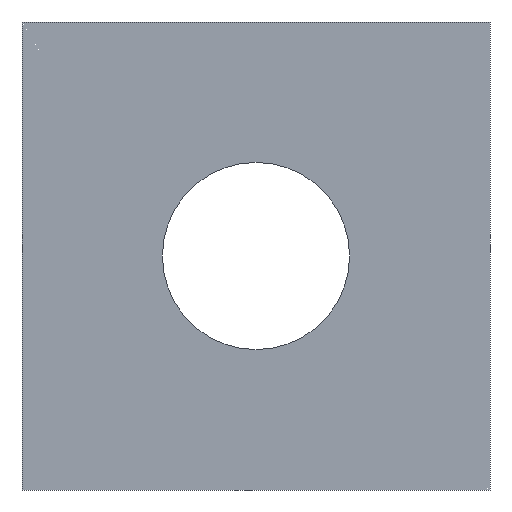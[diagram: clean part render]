
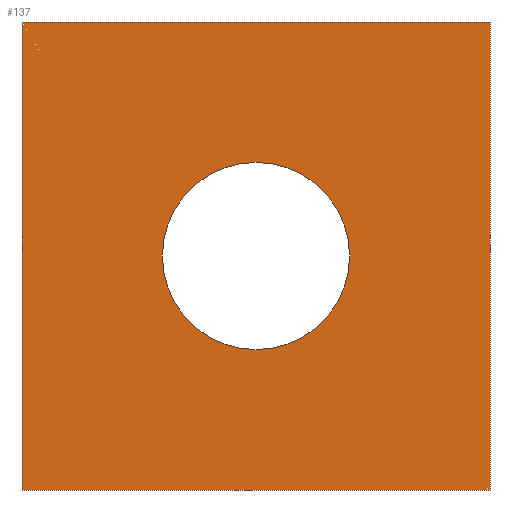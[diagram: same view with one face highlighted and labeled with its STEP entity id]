
A CAD part, front view. The second image highlights one B-rep face of the part: STEP entity #137.
In plain terms, the highlighted planar face has unit normal (0, -1, 0).
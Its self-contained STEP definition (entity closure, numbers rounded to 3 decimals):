
#21 = EDGE_CURVE('',#22,#24,#26,.T.);
#22 = VERTEX_POINT('',#23);
#23 = CARTESIAN_POINT('',(-45.,-21.8,-33.));
#24 = VERTEX_POINT('',#25);
#25 = CARTESIAN_POINT('',(-45.,-21.8,-29.));
#26 = SURFACE_CURVE('',#27,(#31,#43),.PCURVE_S1.);
#27 = LINE('',#28,#29);
#28 = CARTESIAN_POINT('',(-45.,-21.8,-33.));
#29 = VECTOR('',#30,1.);
#30 = DIRECTION('',(0.,0.,1.));
#31 = PCURVE('',#32,#37);
#32 = PLANE('',#33);
#33 = AXIS2_PLACEMENT_3D('',#34,#35,#36);
#34 = CARTESIAN_POINT('',(-45.,-21.8,-33.));
#35 = DIRECTION('',(1.,0.,0.));
#36 = DIRECTION('',(0.,0.,1.));
#37 = DEFINITIONAL_REPRESENTATION('',(#38),#42);
#38 = LINE('',#39,#40);
#39 = CARTESIAN_POINT('',(0.,0.));
#40 = VECTOR('',#41,1.);
#41 = DIRECTION('',(1.,0.));
#42 = ( GEOMETRIC_REPRESENTATION_CONTEXT(2) 
PARAMETRIC_REPRESENTATION_CONTEXT() REPRESENTATION_CONTEXT('2D SPACE',''
  ) );
#43 = PCURVE('',#44,#49);
#44 = PLANE('',#45);
#45 = AXIS2_PLACEMENT_3D('',#46,#47,#48);
#46 = CARTESIAN_POINT('',(-45.,-21.8,-33.));
#47 = DIRECTION('',(0.,1.,0.));
#48 = DIRECTION('',(0.,0.,1.));
#49 = DEFINITIONAL_REPRESENTATION('',(#50),#54);
#50 = LINE('',#51,#52);
#51 = CARTESIAN_POINT('',(0.,0.));
#52 = VECTOR('',#53,1.);
#53 = DIRECTION('',(1.,0.));
#54 = ( GEOMETRIC_REPRESENTATION_CONTEXT(2) 
PARAMETRIC_REPRESENTATION_CONTEXT() REPRESENTATION_CONTEXT('2D SPACE',''
  ) );
#72 = PLANE('',#73);
#73 = AXIS2_PLACEMENT_3D('',#74,#75,#76);
#74 = CARTESIAN_POINT('',(-45.,-21.8,-33.));
#75 = DIRECTION('',(0.,0.,1.));
#76 = DIRECTION('',(1.,0.,0.));
#126 = PLANE('',#127);
#127 = AXIS2_PLACEMENT_3D('',#128,#129,#130);
#128 = CARTESIAN_POINT('',(-45.,-21.8,-29.));
#129 = DIRECTION('',(0.,0.,1.));
#130 = DIRECTION('',(1.,0.,0.));
#137 = ADVANCED_FACE('',(#138,#213),#44,.F.);
#138 = FACE_BOUND('',#139,.F.);
#139 = EDGE_LOOP('',(#140,#163,#164,#187));
#140 = ORIENTED_EDGE('',*,*,#141,.F.);
#141 = EDGE_CURVE('',#22,#142,#144,.T.);
#142 = VERTEX_POINT('',#143);
#143 = CARTESIAN_POINT('',(-41.,-21.8,-33.));
#144 = SURFACE_CURVE('',#145,(#149,#156),.PCURVE_S1.);
#145 = LINE('',#146,#147);
#146 = CARTESIAN_POINT('',(-45.,-21.8,-33.));
#147 = VECTOR('',#148,1.);
#148 = DIRECTION('',(1.,0.,0.));
#149 = PCURVE('',#44,#150);
#150 = DEFINITIONAL_REPRESENTATION('',(#151),#155);
#151 = LINE('',#152,#153);
#152 = CARTESIAN_POINT('',(0.,0.));
#153 = VECTOR('',#154,1.);
#154 = DIRECTION('',(0.,1.));
#155 = ( GEOMETRIC_REPRESENTATION_CONTEXT(2) 
PARAMETRIC_REPRESENTATION_CONTEXT() REPRESENTATION_CONTEXT('2D SPACE',''
  ) );
#156 = PCURVE('',#72,#157);
#157 = DEFINITIONAL_REPRESENTATION('',(#158),#162);
#158 = LINE('',#159,#160);
#159 = CARTESIAN_POINT('',(0.,0.));
#160 = VECTOR('',#161,1.);
#161 = DIRECTION('',(1.,0.));
#162 = ( GEOMETRIC_REPRESENTATION_CONTEXT(2) 
PARAMETRIC_REPRESENTATION_CONTEXT() REPRESENTATION_CONTEXT('2D SPACE',''
  ) );
#163 = ORIENTED_EDGE('',*,*,#21,.T.);
#164 = ORIENTED_EDGE('',*,*,#165,.T.);
#165 = EDGE_CURVE('',#24,#166,#168,.T.);
#166 = VERTEX_POINT('',#167);
#167 = CARTESIAN_POINT('',(-41.,-21.8,-29.));
#168 = SURFACE_CURVE('',#169,(#173,#180),.PCURVE_S1.);
#169 = LINE('',#170,#171);
#170 = CARTESIAN_POINT('',(-45.,-21.8,-29.));
#171 = VECTOR('',#172,1.);
#172 = DIRECTION('',(1.,0.,0.));
#173 = PCURVE('',#44,#174);
#174 = DEFINITIONAL_REPRESENTATION('',(#175),#179);
#175 = LINE('',#176,#177);
#176 = CARTESIAN_POINT('',(4.,0.));
#177 = VECTOR('',#178,1.);
#178 = DIRECTION('',(0.,1.));
#179 = ( GEOMETRIC_REPRESENTATION_CONTEXT(2) 
PARAMETRIC_REPRESENTATION_CONTEXT() REPRESENTATION_CONTEXT('2D SPACE',''
  ) );
#180 = PCURVE('',#126,#181);
#181 = DEFINITIONAL_REPRESENTATION('',(#182),#186);
#182 = LINE('',#183,#184);
#183 = CARTESIAN_POINT('',(0.,0.));
#184 = VECTOR('',#185,1.);
#185 = DIRECTION('',(1.,0.));
#186 = ( GEOMETRIC_REPRESENTATION_CONTEXT(2) 
PARAMETRIC_REPRESENTATION_CONTEXT() REPRESENTATION_CONTEXT('2D SPACE',''
  ) );
#187 = ORIENTED_EDGE('',*,*,#188,.F.);
#188 = EDGE_CURVE('',#142,#166,#189,.T.);
#189 = SURFACE_CURVE('',#190,(#194,#201),.PCURVE_S1.);
#190 = LINE('',#191,#192);
#191 = CARTESIAN_POINT('',(-41.,-21.8,-33.));
#192 = VECTOR('',#193,1.);
#193 = DIRECTION('',(0.,0.,1.));
#194 = PCURVE('',#44,#195);
#195 = DEFINITIONAL_REPRESENTATION('',(#196),#200);
#196 = LINE('',#197,#198);
#197 = CARTESIAN_POINT('',(0.,4.));
#198 = VECTOR('',#199,1.);
#199 = DIRECTION('',(1.,0.));
#200 = ( GEOMETRIC_REPRESENTATION_CONTEXT(2) 
PARAMETRIC_REPRESENTATION_CONTEXT() REPRESENTATION_CONTEXT('2D SPACE',''
  ) );
#201 = PCURVE('',#202,#207);
#202 = PLANE('',#203);
#203 = AXIS2_PLACEMENT_3D('',#204,#205,#206);
#204 = CARTESIAN_POINT('',(-41.,-21.8,-33.));
#205 = DIRECTION('',(1.,0.,0.));
#206 = DIRECTION('',(0.,0.,1.));
#207 = DEFINITIONAL_REPRESENTATION('',(#208),#212);
#208 = LINE('',#209,#210);
#209 = CARTESIAN_POINT('',(0.,0.));
#210 = VECTOR('',#211,1.);
#211 = DIRECTION('',(1.,0.));
#212 = ( GEOMETRIC_REPRESENTATION_CONTEXT(2) 
PARAMETRIC_REPRESENTATION_CONTEXT() REPRESENTATION_CONTEXT('2D SPACE',''
  ) );
#213 = FACE_BOUND('',#214,.F.);
#214 = EDGE_LOOP('',(#215));
#215 = ORIENTED_EDGE('',*,*,#216,.T.);
#216 = EDGE_CURVE('',#217,#217,#219,.T.);
#217 = VERTEX_POINT('',#218);
#218 = CARTESIAN_POINT('',(-42.2,-21.8,-31.));
#219 = SURFACE_CURVE('',#220,(#225,#236),.PCURVE_S1.);
#220 = CIRCLE('',#221,0.8);
#221 = AXIS2_PLACEMENT_3D('',#222,#223,#224);
#222 = CARTESIAN_POINT('',(-43.,-21.8,-31.));
#223 = DIRECTION('',(0.,-1.,0.));
#224 = DIRECTION('',(1.,0.,0.));
#225 = PCURVE('',#44,#226);
#226 = DEFINITIONAL_REPRESENTATION('',(#227),#235);
#227 = ( BOUNDED_CURVE() B_SPLINE_CURVE(2,(#228,#229,#230,#231,#232,#233
,#234),.UNSPECIFIED.,.T.,.F.) B_SPLINE_CURVE_WITH_KNOTS((1,2,2,2,2,1),(
    -2.094,0.,2.094,4.189,6.283,
8.378),.UNSPECIFIED.) CURVE() GEOMETRIC_REPRESENTATION_ITEM() 
RATIONAL_B_SPLINE_CURVE((1.,0.5,1.,0.5,1.,0.5,1.)) REPRESENTATION_ITEM(
  '') );
#228 = CARTESIAN_POINT('',(2.,2.8));
#229 = CARTESIAN_POINT('',(3.386,2.8));
#230 = CARTESIAN_POINT('',(2.693,1.6));
#231 = CARTESIAN_POINT('',(2.,0.4));
#232 = CARTESIAN_POINT('',(1.307,1.6));
#233 = CARTESIAN_POINT('',(0.614,2.8));
#234 = CARTESIAN_POINT('',(2.,2.8));
#235 = ( GEOMETRIC_REPRESENTATION_CONTEXT(2) 
PARAMETRIC_REPRESENTATION_CONTEXT() REPRESENTATION_CONTEXT('2D SPACE',''
  ) );
#236 = PCURVE('',#237,#242);
#237 = CYLINDRICAL_SURFACE('',#238,0.8);
#238 = AXIS2_PLACEMENT_3D('',#239,#240,#241);
#239 = CARTESIAN_POINT('',(-43.,-19.7,-31.));
#240 = DIRECTION('',(0.,-1.,0.));
#241 = DIRECTION('',(1.,0.,0.));
#242 = DEFINITIONAL_REPRESENTATION('',(#243),#247);
#243 = LINE('',#244,#245);
#244 = CARTESIAN_POINT('',(0.,2.1));
#245 = VECTOR('',#246,1.);
#246 = DIRECTION('',(1.,0.));
#247 = ( GEOMETRIC_REPRESENTATION_CONTEXT(2) 
PARAMETRIC_REPRESENTATION_CONTEXT() REPRESENTATION_CONTEXT('2D SPACE',''
  ) );
